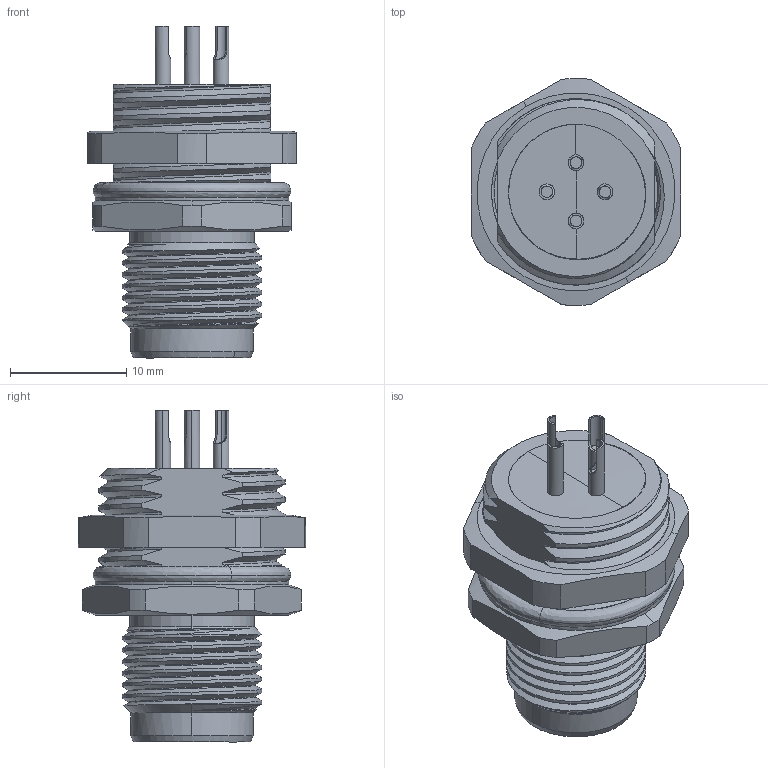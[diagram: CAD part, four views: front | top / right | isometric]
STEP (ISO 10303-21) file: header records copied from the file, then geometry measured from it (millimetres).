
FILE_DESCRIPTION (( 'STEP AP203' ), '1' );
FILE_NAME ('64SA21H.STEP', '2023-10-19T07:51:03', ( 'ADMIN' ), ( '' ), 'SwSTEP 2.0', 'SolidWorks 2016', '' );
FILE_SCHEMA (( 'CONFIG_CONTROL_DESIGN' ));
Length unit declared in the file: millimetre
Products named in the file (1): 64SA21H
Bounding box: 18 x 19.5 x 28.5 mm (x, y, z)
Surface area: 2588.5 mm2 (no closed solid volume)
Topology: 0 solids, 1 shells, 456 faces, 1328 edges, 882 vertices
Faces by surface type: cylinder 155, plane 152, bspline 149
Entity records: 34663 total; most frequent: CARTESIAN_POINT 24667, ORIENTED_EDGE 2644, EDGE_CURVE 1322, DIRECTION 1188, VERTEX_POINT 882, B_SPLINE_CURVE_WITH_KNOTS 805, EDGE_LOOP 478, ADVANCED_FACE 456
